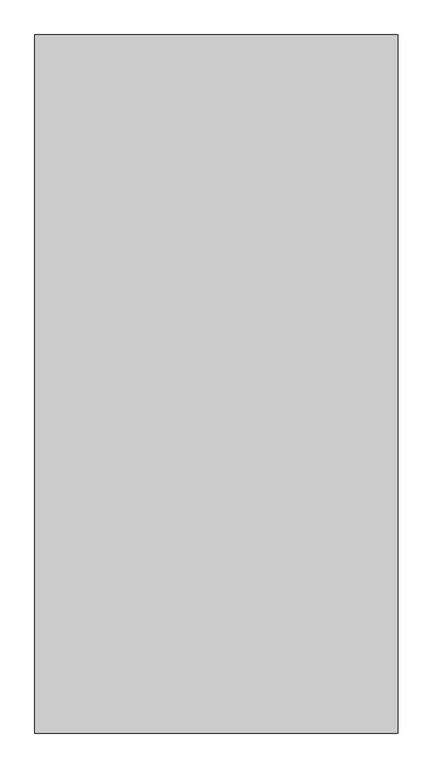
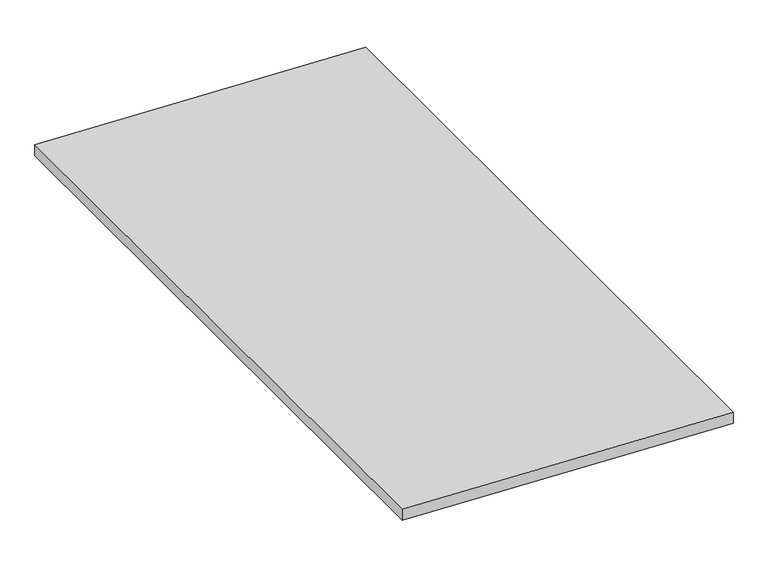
"""IFC4 building model written with IfcOpenShell, lengths in millimetres: proxy geometry, Béton de propreté DT C1 : Béton de propreté 02."""

import ifcopenshell
import ifcopenshell.guid

model = None  # the IFC model being written
_history = None  # IfcOwnerHistory: only IFC2X3 demands one
_inside = {}  # id of a spatial element -> (the spatial element, [elements in it])
_under = {}  # id of a project, library or spatial element -> (it, [spatial elements below it])
_declared = {}  # id of a project -> (the project, [libraries it declares])
_typed = {}  # id of a type object -> (the type object, [elements of that type])
_made_of = {}  # id of a material, layer set ... -> (it, [elements and type objects made of it])


def new_model(schema):
    """Start an empty IFC model of exactly this schema.

    Asked for "IFC4X3", IfcOpenShell would pick the latest addendum, in which some entities
    have other attributes; the version numbers below select the first issue.
    IFC2X3 requires an IfcOwnerHistory on every rooted entity: one is made here for all.
    """
    global model, _history
    if schema == "IFC4X3":
        model = ifcopenshell.file(schema_version=(4, 3, 0, 0))
    else:
        model = ifcopenshell.file(schema=schema)
    _inside.clear()
    _under.clear()
    _declared.clear()
    _typed.clear()
    _made_of.clear()
    _history = None
    if model.schema == "IFC2X3":
        org = make("IfcOrganization", Name="unknown")
        user = make(
            "IfcPersonAndOrganization",
            ThePerson=make("IfcPerson", FamilyName="unknown"),
            TheOrganization=org,
        )
        app = make(
            "IfcApplication",
            ApplicationDeveloper=org,
            Version="unknown",
            ApplicationFullName="unknown",
            ApplicationIdentifier="unknown",
        )
        _history = make(
            "IfcOwnerHistory",
            OwningUser=user,
            OwningApplication=app,
            ChangeAction="ADDED",
            CreationDate=0,
        )
    return model


def make(cls, **values):
    """One entity of the class cls with the attributes given. An attribute that is None is left unset."""
    return model.create_entity(
        cls, **{name: value for name, value in values.items() if value is not None}
    )


def rooted(cls, **values):
    """An entity with a GlobalId (a new one), such as an element, a storey or a relation."""
    return make(cls, GlobalId=ifcopenshell.guid.new(), OwnerHistory=_history, **values)


def si_unit(unit_type, name, prefix=None):
    """IfcSIUnit, for example si_unit("LENGTHUNIT", "METRE", prefix="MILLI")."""
    return make("IfcSIUnit", UnitType=unit_type, Prefix=prefix, Name=name)


def assignment(units):
    """IfcUnitAssignment: the units of a project."""
    return None if units is None else make("IfcUnitAssignment", Units=units)


def point(xyz):
    """IfcCartesianPoint."""
    return None if xyz is None else make("IfcCartesianPoint", Coordinates=xyz)


def direction(xyz):
    """IfcDirection."""
    return None if xyz is None else make("IfcDirection", DirectionRatios=xyz)


def frame(location, z_axis=None, x_axis=None):
    """IfcAxis2Placement3D, a coordinate frame: its origin and axes. An axis left out is left unset."""
    return make(
        "IfcAxis2Placement3D",
        Location=point(location),
        Axis=direction(z_axis),
        RefDirection=direction(x_axis),
    )


def origin():
    """The frame at (0, 0, 0) with its axes left unset."""
    return frame((0.0, 0.0, 0.0))


def place(relative_to, where):
    """IfcLocalPlacement: puts the frame where relative to a parent placement (None: the world)."""
    return make(
        "IfcLocalPlacement", PlacementRelTo=relative_to, RelativePlacement=where
    )


def context(
    kind, dimensions, precision=None, world=None, true_north=None, identifier=None
):
    """IfcGeometricRepresentationContext, for example the 3D "Model" context."""
    return make(
        "IfcGeometricRepresentationContext",
        ContextIdentifier=identifier,
        ContextType=kind,
        CoordinateSpaceDimension=dimensions,
        Precision=precision,
        WorldCoordinateSystem=world,
        TrueNorth=true_north,
    )


def project(units=None, contexts=None):
    """IfcProject with its units and contexts."""
    return rooted(
        "IfcProject",
        Name="project",
        RepresentationContexts=contexts,
        UnitsInContext=assignment(units),
    )


def spatial(cls, under=None, at=None, **own):
    """A site, building, storey or space (cls), placed at a placement, below another one or the project."""
    s = rooted(cls, ObjectPlacement=at, **own)
    if under is not None:
        _under.setdefault(under.id(), (under, []))[1].append(s)
    return s


def polyline(points):
    """IfcPolyline through the points."""
    return make("IfcPolyline", Points=[point(p) for p in points])


def outline(outer, holes=None, kind="AREA"):
    """IfcArbitraryClosedProfileDef: a profile drawn as a closed curve; with holes, ...WithVoids."""
    if holes is None:
        return make("IfcArbitraryClosedProfileDef", ProfileType=kind, OuterCurve=outer)
    return make(
        "IfcArbitraryProfileDefWithVoids",
        ProfileType=kind,
        OuterCurve=outer,
        InnerCurves=holes,
    )


def extrude(swept, where, along, depth):
    """IfcExtrudedAreaSolid: the profile swept, set in the frame where, extruded along a direction by depth."""
    return make(
        "IfcExtrudedAreaSolid",
        SweptArea=swept,
        Position=where,
        ExtrudedDirection=direction(along),
        Depth=depth,
    )


def shape(context_of_items, identifier, shape_type, items):
    """IfcShapeRepresentation: the items that make up one representation, for example the "Body"."""
    return make(
        "IfcShapeRepresentation",
        ContextOfItems=context_of_items,
        RepresentationIdentifier=identifier,
        RepresentationType=shape_type,
        Items=items,
    )


def source(mapping_origin, context_of_items, identifier, shape_type, items):
    """IfcRepresentationMap: a shape defined once, which mapped items show again and again."""
    return make(
        "IfcRepresentationMap",
        MappingOrigin=mapping_origin,
        MappedRepresentation=shape(context_of_items, identifier, shape_type, items),
    )


def transform(
    local_origin,
    x_axis=None,
    y_axis=None,
    z_axis=None,
    scale=None,
    scale2=None,
    scale3=None,
    uniform=True,
):
    """IfcCartesianTransformationOperator3D, or its non-uniform kind. x_axis, y_axis, z_axis: its Axis1, 2, 3."""
    if uniform:
        return make(
            "IfcCartesianTransformationOperator3D",
            Axis1=direction(x_axis),
            Axis2=direction(y_axis),
            LocalOrigin=point(local_origin),
            Scale=scale,
            Axis3=direction(z_axis),
        )
    return make(
        "IfcCartesianTransformationOperator3DnonUniform",
        Axis1=direction(x_axis),
        Axis2=direction(y_axis),
        LocalOrigin=point(local_origin),
        Scale=scale,
        Axis3=direction(z_axis),
        Scale2=scale2,
        Scale3=scale3,
    )


def mapped(mapping_source, mapping_target):
    """IfcMappedItem: shows the shape of a source again, moved by a transform."""
    return make(
        "IfcMappedItem", MappingSource=mapping_source, MappingTarget=mapping_target
    )


def made_of(thing, what):
    """Note that an element or type object is made of a material, layer set ...; save() writes the relation."""
    if what is not None:
        _made_of.setdefault(what.id(), (what, []))[1].append(thing)
    return thing


def element(
    cls,
    number,
    at=None,
    inside=None,
    cuts=None,
    type_object=None,
    material=None,
    context=None,
    identifier="Body",
    shape_type=None,
    held_by="IfcProductDefinitionShape",
    body=None,
    shapes=None,
    **own,
):
    """One element of the class cls, such as IfcWall. Its Tag is "e" and its number.

    at: its placement. inside: the storey or other place that contains it. cuts: it is an
    opening in that element (IfcRelVoidsElement). A single representation is given by context,
    identifier, shape_type and body (its items); several are given by shapes. held_by: the class
    of the entity that holds the representations. save() writes the other relations.
    """
    e = rooted(cls, Tag="e%d" % number, ObjectPlacement=at, **own)
    if body is not None:
        shapes = [shape(context, identifier, shape_type, body)]
    if shapes is not None:
        e.Representation = make(held_by, Representations=shapes)
    if inside is not None:
        _inside.setdefault(inside.id(), (inside, []))[1].append(e)
    if cuts is not None:
        rooted(
            "IfcRelVoidsElement", RelatingBuildingElement=cuts, RelatedOpeningElement=e
        )
    if type_object is not None:
        _typed.setdefault(type_object.id(), (type_object, []))[1].append(e)
    return made_of(e, material)


def aggregate(whole, parts):
    """IfcRelAggregates: a whole, such as a stair, and the parts it consists of."""
    return rooted("IfcRelAggregates", RelatingObject=whole, RelatedObjects=parts)


def save(model, path):
    """Write the relations noted so far, then the file.

    IfcRelAggregates (storeys below a building ...), IfcRelContainedInSpatialStructure (elements
    in a storey), IfcRelDefinesByType, IfcRelAssociatesMaterial and IfcRelDeclares: one each for
    every whole, place, type object, material and project.
    """
    for whole, parts in _under.values():
        aggregate(whole, parts)
    for where, things in _inside.values():
        rooted(
            "IfcRelContainedInSpatialStructure",
            RelatedElements=things,
            RelatingStructure=where,
        )
    for kind, things in _typed.values():
        rooted("IfcRelDefinesByType", RelatedObjects=things, RelatingType=kind)
    for what, things in _made_of.values():
        rooted("IfcRelAssociatesMaterial", RelatedObjects=things, RelatingMaterial=what)
    for by, libraries in _declared.values():
        rooted("IfcRelDeclares", RelatingContext=by, RelatedDefinitions=libraries)
    model.write(path)


def generic_models_f3c05cdf(model_context):
    return source(origin(), model_context, "Body", "SweptSolid", [
        extrude(outline(polyline([(4098.4, 7430.0), (3998.4, 7430.0), (3886.0, 10240.0), (3986.0, 10240.0), (4098.4, 7430.0)])), frame((0.0, -2700.0, 0.0), z_axis=(0.0, 1.0, 0.0), x_axis=(0.0, 0.0, 1.0)), (0.0, 0.0, 1.0), 5400.0),
    ])


if __name__ == "__main__":
    model = new_model("IFC4")
    model_context = context("Model", 3, world=origin())
    ifc_project = project(units=[si_unit("LENGTHUNIT", "METRE", prefix="MILLI")], contexts=[model_context])
    site = spatial("IfcSite", under=ifc_project)
    building = spatial("IfcBuilding", under=site)
    placement = place(None, origin())
    generic_models_shape = generic_models_f3c05cdf(model_context)
    element("IfcBuildingElementProxy", 1, Name="Béton de propreté DT C1 : Béton de propreté 02", ObjectType="Béton de propreté DT C1 : Béton de propreté 02", at=placement, inside=building, context=model_context, shape_type="MappedRepresentation", body=[
        mapped(generic_models_shape, transform((0.0, 0.0, 0.0), x_axis=(1.0, 0.0, 0.0), y_axis=(0.0, 1.0, 0.0), z_axis=(0.0, 0.0, 1.0))),
    ])
    save(model, "model.ifc")
